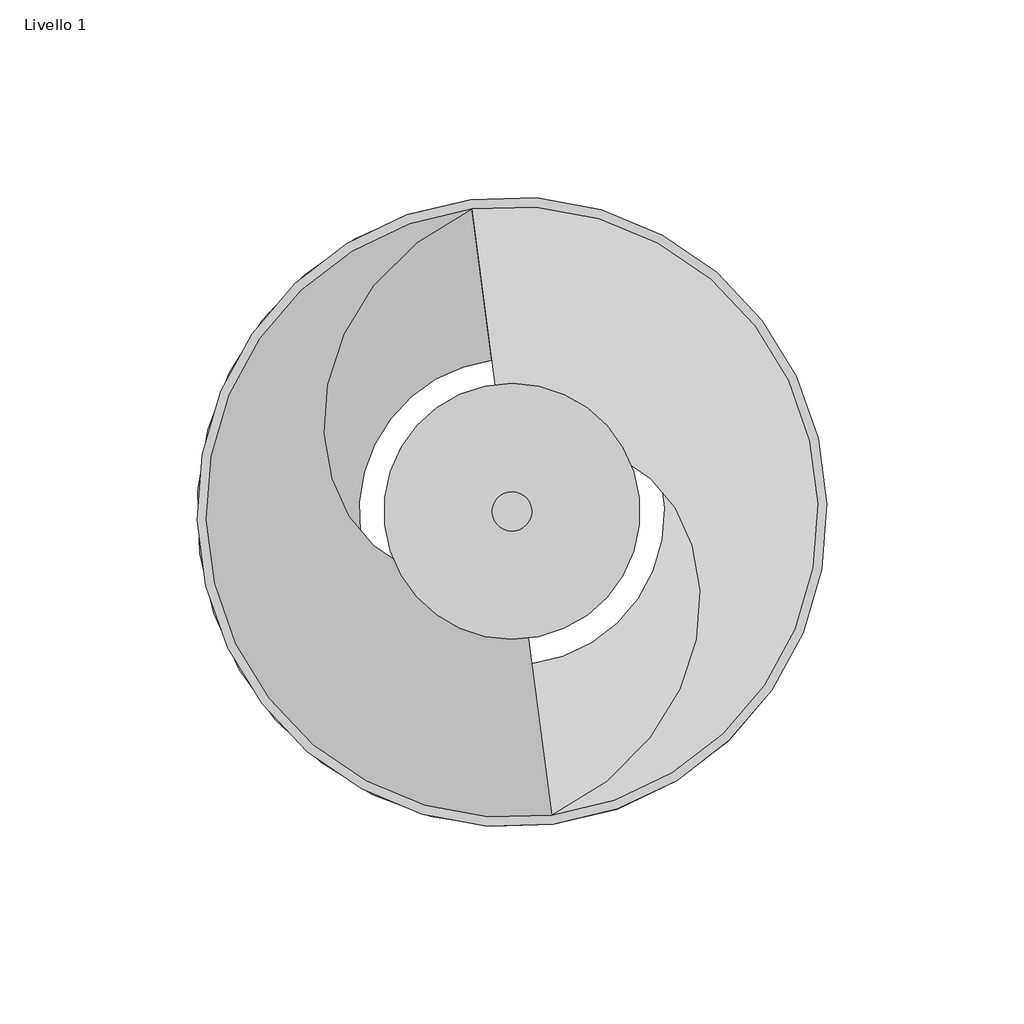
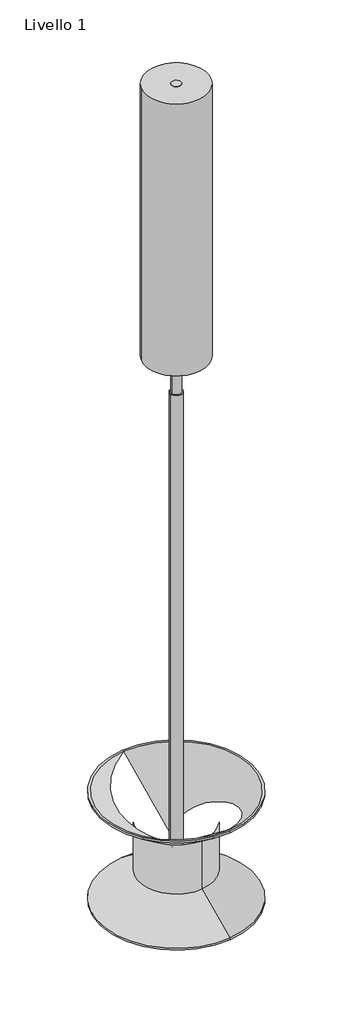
# One storey, incomplete: 4 proxies.
"""IFC4 building model written with IfcOpenShell, lengths in millimetres."""

from ifc_helpers import new_model, si_unit, origin, place, context, project, spatial, transform, mapped, element, save
from components import generic_models_f0d82e63, generic_models_8c3d3b65, generic_models_79030217, generic_models_78a4a330

model = new_model("IFC4")

# Units and contexts
model_context = context("Model", 3, world=origin())
ifc_project = project(units=[si_unit("LENGTHUNIT", "METRE", prefix="MILLI")], contexts=[model_context])

# Site, building, storey
site = spatial("IfcSite", under=ifc_project)
building = spatial("IfcBuilding", under=site)
storey = spatial("IfcBuildingStorey", under=building, Name="Livello 1", Elevation=0.0)

# Proxies
placement = place(None, origin())
generic_models_shape = generic_models_f0d82e63(model_context)
element("IfcBuildingElementProxy", 1, Name="LFLO-MEXX-051", ObjectType="LFLO-MEXX-051", at=placement, inside=storey, context=model_context, shape_type="MappedRepresentation", body=[
    mapped(generic_models_shape, transform((0.0, 0.0, 0.0), x_axis=(-0.9810319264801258, -0.19384622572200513, 0.0), y_axis=(0.0, 0.0, 1.0000000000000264), z_axis=(-0.19384622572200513, 0.9810319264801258, 0.0))),
])
generic_models_2_shape = generic_models_8c3d3b65(model_context)
element("IfcBuildingElementProxy", 2, Name="LFLO-AACA-001", ObjectType="LFLO-AACA-001", at=placement, inside=storey, context=model_context, shape_type="MappedRepresentation", body=[
    mapped(generic_models_2_shape, transform((0.0, 0.0, 0.0), x_axis=(0.9957694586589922, 0.09188680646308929, 0.0), y_axis=(0.0, 0.0, 0.9999999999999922), z_axis=(0.09188680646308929, -0.9957694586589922, 0.0))),
])
generic_models_3_shape = generic_models_79030217(model_context)
element("IfcBuildingElementProxy", 3, Name="LFLO-MEXX-061", ObjectType="LFLO-MEXX-061", at=placement, inside=storey, context=model_context, shape_type="MappedRepresentation", body=[
    mapped(generic_models_3_shape, transform((0.0, 0.0, 540.0), x_axis=(-0.9508188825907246, 0.309747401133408, 0.0), y_axis=(0.0, 0.0, 1.0000000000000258), z_axis=(0.309747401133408, 0.9508188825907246, 0.0))),
])
generic_models_4_shape = generic_models_78a4a330(model_context)
element("IfcBuildingElementProxy", 4, Name="LFLO-MEXX-001", ObjectType="LFLO-MEXX-001", at=placement, inside=storey, context=model_context, shape_type="MappedRepresentation", body=[
    mapped(generic_models_4_shape, transform((0.0, 0.0, 0.0), x_axis=(0.9914452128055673, 0.13052352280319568, 0.0), y_axis=(0.13052352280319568, -0.9914452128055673, 0.0), z_axis=(0.0, 0.0, -0.9999999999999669))),
])

save(model, "model.ifc")
